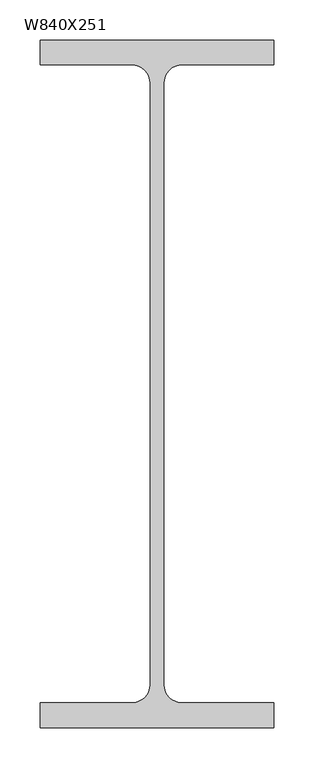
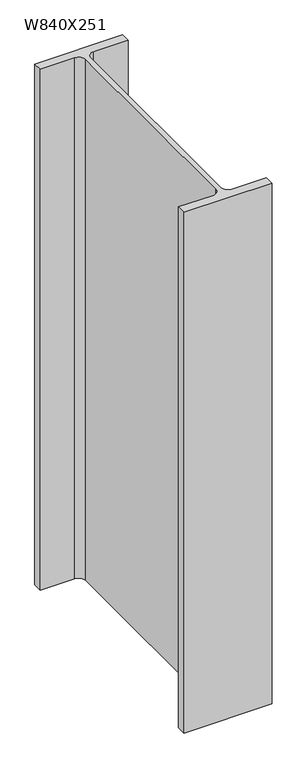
"""IFC4 building model written with IfcOpenShell, lengths in millimetres: column geometry, M_W-Wide Flange-Column : W840X251."""

from ifc_helpers import new_model, si_unit, point, frame, frame_2d, origin, place, context, project, spatial, polyline, circle_curve, trimmed, segment, composite_curve, outline, extrude, source, transform, mapped, element, save


def w840x251_0592dfe8(model_context):
    return source(origin(), model_context, "Body", "SweptSolid", [
        extrude(outline(composite_curve([segment(polyline([(146.0, 429.5), (146.0, 398.5), (31.5, 398.5)]), True, "CONTINUOUS"), segment(trimmed(circle_curve(frame_2d((31.5, 375.5)), 23.0), [point((31.5, 398.5))], [point((8.5, 375.5))], True, "CARTESIAN"), True, "CONTINUOUS"), segment(polyline([(8.5, 375.5), (8.5, -375.5)]), True, "CONTINUOUS"), segment(trimmed(circle_curve(frame_2d((31.5, -375.5)), 23.0), [point((8.5, -375.5))], [point((31.5, -398.5))], True, "CARTESIAN"), True, "CONTINUOUS"), segment(polyline([(31.5, -398.5), (146.0, -398.5), (146.0, -429.5), (-146.0, -429.5), (-146.0, -398.5), (-31.5, -398.5)]), True, "CONTINUOUS"), segment(trimmed(circle_curve(frame_2d((-31.5, -375.5)), 23.0), [point((-31.5, -398.5))], [point((-8.5, -375.5))], True, "CARTESIAN"), True, "CONTINUOUS"), segment(polyline([(-8.5, -375.5), (-8.5, 375.5)]), True, "CONTINUOUS"), segment(trimmed(circle_curve(frame_2d((-31.5, 375.5)), 23.0), [point((-8.5, 375.5))], [point((-31.5, 398.5))], True, "CARTESIAN"), True, "CONTINUOUS"), segment(polyline([(-31.5, 398.5), (-146.0, 398.5), (-146.0, 429.5), (146.0, 429.5)]), True, "CONTINUOUS")], self_intersect=False)), frame((0.0, 0.0, -1829.0), z_axis=(0.0, 0.0, 1.0), x_axis=(1.0, 0.0, 0.0)), (0.0, 0.0, 1.0), 1829.0),
    ])


if __name__ == "__main__":
    model = new_model("IFC4")
    model_context = context("Model", 3, world=origin())
    ifc_project = project(units=[si_unit("LENGTHUNIT", "METRE", prefix="MILLI")], contexts=[model_context])
    site = spatial("IfcSite", under=ifc_project)
    building = spatial("IfcBuilding", under=site)
    placement = place(None, origin())
    w840x251_shape = w840x251_0592dfe8(model_context)
    element("IfcColumn", 1, ObjectType="M_W-Wide Flange-Column : W840X251", at=placement, inside=building, context=model_context, shape_type="MappedRepresentation", body=[
        mapped(w840x251_shape, transform((0.0, 0.0, 0.0), x_axis=(1.0, 0.0, 0.0), y_axis=(0.0, 1.0, 0.0), z_axis=(0.0, 0.0, 1.0))),
    ])
    save(model, "model.ifc")
